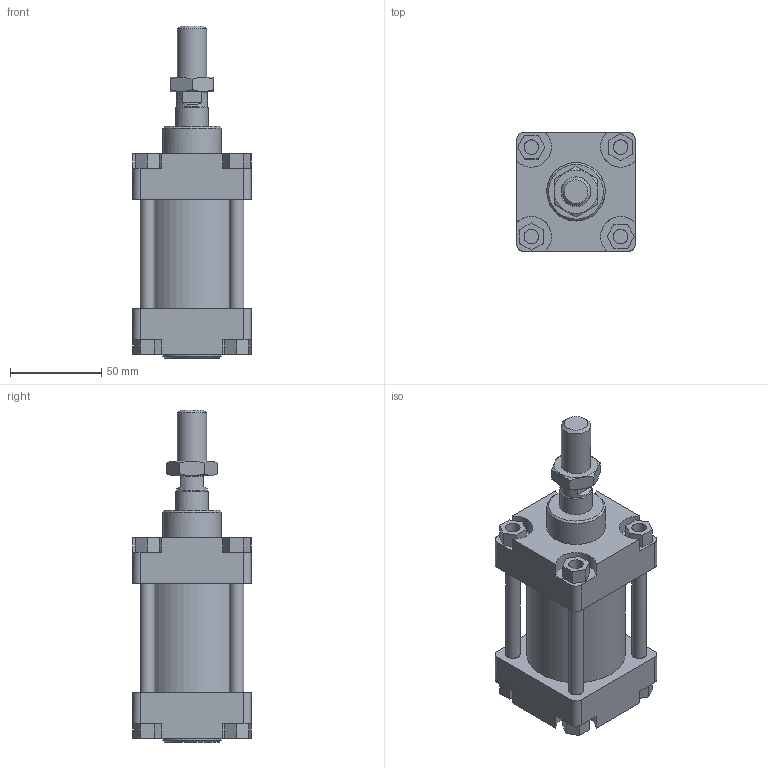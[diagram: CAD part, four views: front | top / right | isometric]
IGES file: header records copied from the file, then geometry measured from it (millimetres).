
Global section: file name: 1303_050_0000_01A; native system: Autodesk Inventor 2014; preprocessor: unknown; author: A. Manieri; date: 20161123.150141; units: millimetre
Bounding box: 65 x 65 x 182 mm (x, y, z)
Volume: 356909 mm3; surface area: 89637 mm2
Topology: 9 solids, 9 shells, 163 faces, 401 edges, 268 vertices
Faces by surface type: bspline 163
